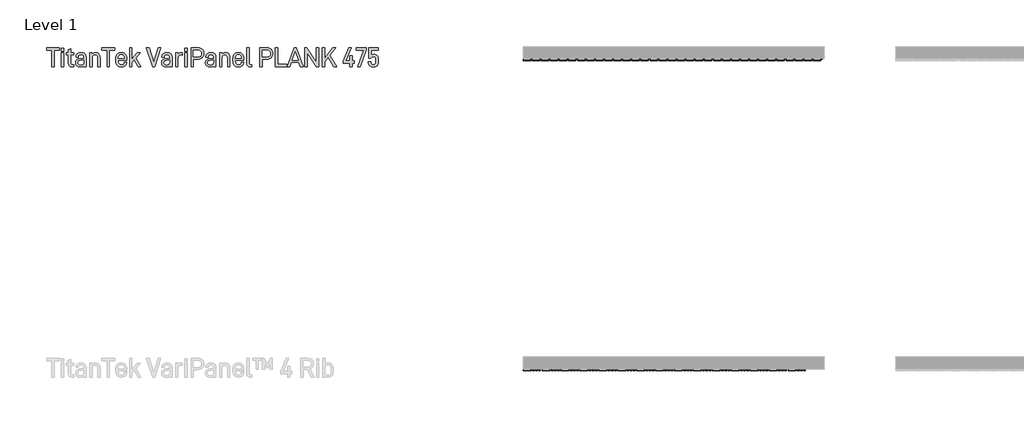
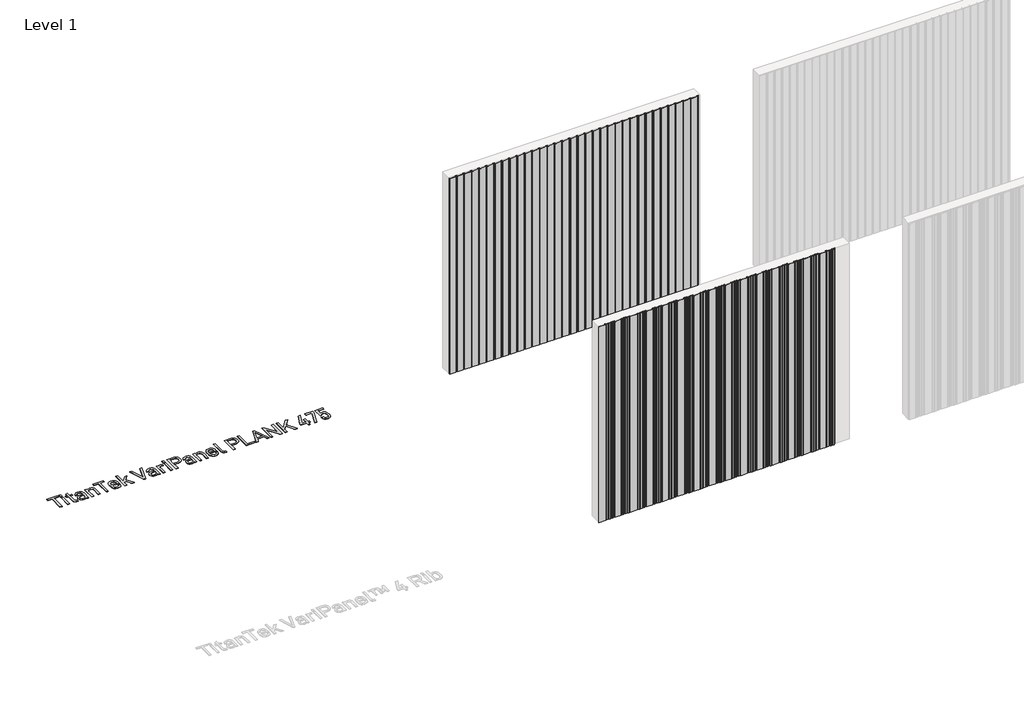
# One storey, part 16 of 33: 3 proxies.
"""IFC4 building model written with IfcOpenShell, lengths in millimetres."""

from ifc_helpers import new_model, si_unit, origin, origin_with_axes, place, context, project, spatial, polyline, outline, extrude, transform, mapped, element, save
from components import aluminum_slate_gray_4f0563ca, steel_bone_white_7c3ab337

model = new_model("IFC4")

# Units and contexts
model_context = context("Model", 3, world=origin())
ifc_project = project(units=[si_unit("LENGTHUNIT", "METRE", prefix="MILLI")], contexts=[model_context])

# Site, building, storey
site = spatial("IfcSite", under=ifc_project)
building = spatial("IfcBuilding", under=site)
storey = spatial("IfcBuildingStorey", under=building, Name="Level 1", Elevation=0.0)

# Proxies
placement = place(None, origin())
element("IfcBuildingElementProxy", 1, Name="600mm Arial 2", ObjectType="600mm Arial 2", at=placement, inside=storey, context=model_context, shape_type="SweptSolid", body=[
    extrude(outline(polyline([(-9914.9924556, 42220.4128343), (-9914.9924556, 41952.9873502), (-9954.4439015, 41952.9873502), (-9954.4439015, 42220.4128343), (-10038.8787304, 42220.4128343), (-10038.8787304, 42257.3166776), (-9830.5576267, 42257.3166776), (-9830.5576267, 42220.4128343), (-9914.9924556, 42220.4128343)])), origin_with_axes(), (0.0, 0.0, 1.0), 5.0),
    extrude(outline(polyline([(-9763.1553408, 42253.0221475), (-9763.1553408, 42205.8551051), (-9802.6067867, 42205.8551051), (-9802.6067867, 42253.0221475), (-9763.1553408, 42253.0221475)])), origin_with_axes(), (0.0, 0.0, 1.0), 5.0),
    extrude(outline(polyline([(-9764.0288046, 42178.8505176), (-9764.0288046, 41952.9873502), (-9801.733323, 41952.9873502), (-9801.733323, 42178.8505176), (-9764.0288046, 42178.8505176)])), origin_with_axes(), (0.0, 0.0, 1.0), 5.0),
    extrude(outline(polyline([(-9648.294858, 42012.601251), (-9646.8208879, 42001.5191797), (-9642.3989777, 41993.6034145), (-9635.0291273, 41988.8539554), (-9624.7113368, 41987.2708023), (-9603.2386864, 41987.2708023), (-9603.2386864, 41952.9873502), (-9629.3698101, 41952.9873502), (-9653.1535001, 41956.9543314), (-9671.3688587, 41968.855275), (-9682.6692959, 41987.3981825), (-9686.4361083, 42011.2910554), (-9686.4361083, 42147.1146681), (-9720.2828285, 42147.1146681), (-9720.2828285, 42178.8505176), (-9686.4361083, 42178.8505176), (-9686.4361083, 42226.8910237), (-9648.294858, 42244.8698192), (-9648.294858, 42178.8505176), (-9599.3808881, 42178.8505176), (-9599.3808881, 42147.1146681), (-9648.294858, 42147.1146681), (-9648.294858, 42012.601251)])), origin_with_axes(), (0.0, 0.0, 1.0), 5.0),
    extrude(outline(polyline([(-9422.8684225, 42162.1091291), (-9413.2830677, 42151.3409589), (-9406.4363858, 42138.2526505), (-9400.9590402, 42105.1156196), (-9400.9590402, 41952.9873502), (-9438.2996154, 41952.9873502), (-9438.2996154, 41969.2920069), (-9456.7151427, 41956.8451485), (-9473.7476858, 41952.0410978), (-9493.9829293, 41950.4397476), (-9526.0281305, 41954.7160806), (-9550.1029751, 41967.5450794), (-9565.2248162, 41989.3270816), (-9570.2654299, 42018.5699199), (-9565.1338304, 42046.2114081), (-9549.7390318, 42067.4111012), (-9525.063681, 42080.6222403), (-9493.1094655, 42085.0259534), (-9438.7363472, 42085.0259534), (-9438.7363472, 42105.5523515), (-9441.6296959, 42124.441005), (-9450.3097419, 42138.1616647), (-9464.2305704, 42146.1866129), (-9483.7197302, 42148.8615956), (-9502.2262434, 42146.6051476), (-9515.819523, 42139.8358036), (-9524.1720201, 42129.4816187), (-9526.9561857, 42115.4516073), (-9526.9561857, 42109.8468816), (-9563.8600291, 42109.8468816), (-9563.8600291, 42116.2522824), (-9558.4008807, 42143.2932642), (-9542.0234354, 42164.2927885), (-9516.8203668, 42177.4493362), (-9484.1564621, 42181.8348521), (-9448.6719974, 42176.9034213), (-9434.5600987, 42170.7391329), (-9422.8684225, 42162.1091291)]), holes=[polyline([(-9450.6736851, 41994.5496669), (-9441.7206817, 42009.4531421), (-9438.7363472, 42031.0167784), (-9438.7363472, 42054.9642428), (-9488.8149354, 42054.9642428), (-9507.9538, 42052.7168933), (-9521.6244175, 42045.974845), (-9529.826788, 42034.7380979), (-9532.5609115, 42019.0066518), (-9529.8540837, 42003.0522906), (-9521.7336004, 41991.6563182), (-9508.1994616, 41984.8187348), (-9489.2516673, 41982.5395404), (-9466.104878, 41985.542072), (-9450.6736851, 41994.5496669)])]), origin_with_axes(), (0.0, 0.0, 1.0), 5.0),
    extrude(outline(polyline([(-9306.6977441, 42178.8505176), (-9306.6977441, 42160.4349903), (-9288.2822167, 42173.6825238), (-9271.1222935, 42179.4692211), (-9252.2518372, 42181.3981202), (-9219.9154813, 42175.9389718), (-9206.7907787, 42169.1150363), (-9195.6950595, 42159.5615265), (-9187.0650557, 42147.9790333), (-9180.9007673, 42134.1946835), (-9175.9693365, 42100.0204144), (-9175.9693365, 41952.9873502), (-9213.673855, 41952.9873502), (-9213.673855, 42095.7258843), (-9216.6763866, 42118.1083928), (-9225.6839815, 42133.8671346), (-9240.3781893, 42143.4752358), (-9259.567096, 42146.6779363), (-9278.7378056, 42143.4752358), (-9293.3774219, 42133.8671346), (-9303.0401146, 42117.453295), (-9306.2610122, 42095.7258843), (-9306.2610122, 41952.9873502), (-9343.9655306, 41952.9873502), (-9343.9655306, 42178.8505176), (-9306.6977441, 42178.8505176)])), origin_with_axes(), (0.0, 0.0, 1.0), 5.0),
    extrude(outline(polyline([(-9025.2240514, 42220.4128343), (-9025.2240514, 41952.9873502), (-9064.6754974, 41952.9873502), (-9064.6754974, 42220.4128343), (-9149.1103263, 42220.4128343), (-9149.1103263, 42257.3166776), (-8940.7892225, 42257.3166776), (-8940.7892225, 42220.4128343), (-9025.2240514, 42220.4128343)])), origin_with_axes(), (0.0, 0.0, 1.0), 5.0),
    extrude(outline(polyline([(-8884.5235994, 42047.2486463), (-8881.1025331, 42017.8329349), (-8870.8393341, 41998.8805913), (-8854.3527058, 41988.5900965), (-8832.2613519, 41985.1599316), (-8812.990558, 41987.7257314), (-8798.8513635, 41995.4231306), (-8790.1713175, 42007.1966941), (-8787.2779689, 42022.86445), (-8787.2779689, 42028.3963871), (-8750.3741256, 42028.3963871), (-8750.3741256, 42021.9909863), (-8756.0516399, 41992.8391337), (-8763.1485329, 41980.528754), (-8773.084183, 41969.7287387), (-8799.7976159, 41955.2619954), (-8834.3722226, 41950.4397476), (-8853.3222916, 41951.9387388), (-8870.2843206, 41956.4357123), (-8885.2583098, 41963.9306682), (-8898.2442591, 41974.4236064), (-8908.7371973, 41988.0237099), (-8916.2321532, 42004.8401617), (-8920.7291267, 42024.8729617), (-8922.2281179, 42048.1221101), (-8922.2281179, 42085.8266285), (-8920.7314014, 42108.5321367), (-8916.2412518, 42128.1714231), (-8908.7576691, 42144.7444879), (-8898.2806535, 42158.2513309), (-8885.4971476, 42168.5691214), (-8870.7301511, 42175.9389718), (-8853.979664, 42180.360882), (-8835.2456864, 42181.8348521), (-8816.8438069, 42180.360882), (-8800.2161506, 42175.9389718), (-8785.3627176, 42168.5691214), (-8772.2835079, 42158.2513309), (-8761.9657174, 42144.9082623), (-8754.595867, 42128.389789), (-8750.1739568, 42108.6959111), (-8748.6999867, 42085.8266285), (-8748.6999867, 42055.8377065), (-8884.5235994, 42055.8377065), (-8884.5235994, 42047.2486463)]), holes=[polyline([(-8871.2760659, 42133.4304027), (-8881.2117161, 42115.30603), (-8884.5235994, 42086.7000923), (-8786.4045051, 42086.2633604), (-8786.4045051, 42089.6844267), (-8789.6254027, 42116.9255774), (-8799.2880954, 42134.3038665), (-8814.9012599, 42143.5844188), (-8835.2456864, 42146.6779363), (-8855.60831, 42143.3660529), (-8871.2760659, 42133.4304027)])]), origin_with_axes(), (0.0, 0.0, 1.0), 5.0),
    extrude(outline(polyline([(-8663.391694, 42020.3168474), (-8663.391694, 41952.9873502), (-8701.0962125, 41952.9873502), (-8701.0962125, 42257.3166776), (-8663.391694, 42257.3166776), (-8663.391694, 42070.8321675), (-8575.0990669, 42178.8505176), (-8528.3687564, 42178.8505176), (-8602.5403863, 42091.8680861), (-8517.6688255, 41952.9873502), (-8563.5256722, 41952.9873502), (-8627.7980463, 42062.6798392), (-8663.391694, 42020.3168474)])), origin_with_axes(), (0.0, 0.0, 1.0), 5.0),
    extrude(outline(polyline([(-8240.5624516, 42257.3166776), (-8199.0001349, 42257.3166776), (-8298.4294248, 41952.9873502), (-8330.1652743, 41952.9873502), (-8429.1578324, 42257.3166776), (-8387.5955157, 42257.3166776), (-8313.8606177, 42022.86445), (-8240.5624516, 42257.3166776)])), origin_with_axes(), (0.0, 0.0, 1.0), 5.0),
    extrude(outline(polyline([(-8039.3018464, 42162.1091291), (-8029.7164916, 42151.3409589), (-8022.8698097, 42138.2526505), (-8017.3924641, 42105.1156196), (-8017.3924641, 41952.9873502), (-8054.7330393, 41952.9873502), (-8054.7330393, 41969.2920069), (-8073.1485666, 41956.8451485), (-8090.1811097, 41952.0410978), (-8110.4163532, 41950.4397476), (-8142.4615544, 41954.7160806), (-8166.536399, 41967.5450794), (-8181.6582401, 41989.3270816), (-8186.6988538, 42018.5699199), (-8181.5672543, 42046.2114081), (-8166.1724557, 42067.4111012), (-8141.4971049, 42080.6222403), (-8109.5428894, 42085.0259534), (-8055.1697712, 42085.0259534), (-8055.1697712, 42105.5523515), (-8058.0631198, 42124.441005), (-8066.7431658, 42138.1616647), (-8080.6639943, 42146.1866129), (-8100.1531542, 42148.8615956), (-8118.6596673, 42146.6051476), (-8132.2529469, 42139.8358036), (-8140.605444, 42129.4816187), (-8143.3896097, 42115.4516073), (-8143.3896097, 42109.8468816), (-8180.293453, 42109.8468816), (-8180.293453, 42116.2522824), (-8174.8343046, 42143.2932642), (-8158.4568593, 42164.2927885), (-8133.2537908, 42177.4493362), (-8100.589886, 42181.8348521), (-8065.1054213, 42176.9034213), (-8050.9935226, 42170.7391329), (-8039.3018464, 42162.1091291)]), holes=[polyline([(-8067.107109, 41994.5496669), (-8058.1541056, 42009.4531421), (-8055.1697712, 42031.0167784), (-8055.1697712, 42054.9642428), (-8105.2483594, 42054.9642428), (-8124.3872239, 42052.7168933), (-8138.0578414, 42045.974845), (-8146.2602119, 42034.7380979), (-8148.9943354, 42019.0066518), (-8146.2875076, 42003.0522906), (-8138.1670243, 41991.6563182), (-8124.6328855, 41984.8187348), (-8105.6850912, 41982.5395404), (-8082.5383019, 41985.542072), (-8067.107109, 41994.5496669)])]), origin_with_axes(), (0.0, 0.0, 1.0), 5.0),
    extrude(outline(polyline([(-7870.4321886, 42181.8348521), (-7850.2697337, 42179.7239814), (-7850.2697337, 42140.7092673), (-7876.8375894, 42146.313993), (-7895.1712295, 42142.7746451), (-7909.8472402, 42132.1566015), (-7919.4826371, 42115.7518604), (-7922.6944361, 42094.8524206), (-7922.6944361, 41952.9873502), (-7960.3989546, 41952.9873502), (-7960.3989546, 42178.8505176), (-7923.131168, 42178.8505176), (-7923.131168, 42159.1247947), (-7905.5891044, 42173.3185806), (-7889.4846166, 42179.7057842), (-7870.4321886, 42181.8348521)])), origin_with_axes(), (0.0, 0.0, 1.0), 5.0),
    extrude(outline(polyline([(-7773.9872331, 42253.0221475), (-7773.9872331, 42205.8551051), (-7813.438679, 42205.8551051), (-7813.438679, 42253.0221475), (-7773.9872331, 42253.0221475)])), origin_with_axes(), (0.0, 0.0, 1.0), 5.0),
    extrude(outline(polyline([(-7774.8606969, 42178.8505176), (-7774.8606969, 41952.9873502), (-7812.5652153, 41952.9873502), (-7812.5652153, 42178.8505176), (-7774.8606969, 42178.8505176)])), origin_with_axes(), (0.0, 0.0, 1.0), 5.0),
    extrude(outline(polyline([(-7529.6357497, 42233.2964245), (-7518.2033831, 42219.8396237), (-7510.0374069, 42203.926206), (-7505.1378212, 42185.5561716), (-7503.504626, 42164.7295204), (-7505.1651169, 42145.044741), (-7510.1465899, 42127.5527196), (-7518.4490448, 42112.2534562), (-7530.0724816, 42099.1469507), (-7544.1297888, 42088.6380899), (-7560.6073184, 42081.1317609), (-7579.5050706, 42076.6279634), (-7600.8230452, 42075.1266976), (-7671.5008201, 42075.1266976), (-7671.5008201, 41952.9873502), (-7711.3889979, 41952.9873502), (-7711.3889979, 42257.3166776), (-7600.8230452, 42257.3166776), (-7579.6415493, 42255.8154118), (-7560.7165014, 42251.3116143), (-7544.0479016, 42243.8052853), (-7529.6357497, 42233.2964245)]), holes=[polyline([(-7558.3872648, 42125.2780744), (-7547.141419, 42141.5827311), (-7543.3928038, 42164.7295204), (-7547.250602, 42189.3502798), (-7558.8239966, 42206.7285689), (-7577.8946218, 42216.9917679), (-7603.3706478, 42220.4128343), (-7671.5008201, 42220.4128343), (-7671.5008201, 42112.0305409), (-7603.3706478, 42112.0305409), (-7577.130341, 42115.3424243), (-7558.3872648, 42125.2780744)])]), origin_with_axes(), (0.0, 0.0, 1.0), 5.0),
    extrude(outline(polyline([(-7331.2139018, 42162.1091291), (-7321.628547, 42151.3409589), (-7314.781865, 42138.2526505), (-7309.3045194, 42105.1156196), (-7309.3045194, 41952.9873502), (-7346.6450946, 41952.9873502), (-7346.6450946, 41969.2920069), (-7365.060622, 41956.8451485), (-7382.093165, 41952.0410978), (-7402.3284085, 41950.4397476), (-7434.3736098, 41954.7160806), (-7458.4484543, 41967.5450794), (-7473.5702954, 41989.3270816), (-7478.6109091, 42018.5699199), (-7473.4793096, 42046.2114081), (-7458.0845111, 42067.4111012), (-7433.4091602, 42080.6222403), (-7401.4549448, 42085.0259534), (-7347.0818265, 42085.0259534), (-7347.0818265, 42105.5523515), (-7349.9751752, 42124.441005), (-7358.6552212, 42138.1616647), (-7372.5760496, 42146.1866129), (-7392.0652095, 42148.8615956), (-7410.5717226, 42146.6051476), (-7424.1650022, 42139.8358036), (-7432.5174993, 42129.4816187), (-7435.301665, 42115.4516073), (-7435.301665, 42109.8468816), (-7472.2055083, 42109.8468816), (-7472.2055083, 42116.2522824), (-7466.7463599, 42143.2932642), (-7450.3689146, 42164.2927885), (-7425.1658461, 42177.4493362), (-7392.5019414, 42181.8348521), (-7357.0174766, 42176.9034213), (-7342.905578, 42170.7391329), (-7331.2139018, 42162.1091291)]), holes=[polyline([(-7359.0191644, 41994.5496669), (-7350.066161, 42009.4531421), (-7347.0818265, 42031.0167784), (-7347.0818265, 42054.9642428), (-7397.1604147, 42054.9642428), (-7416.2992792, 42052.7168933), (-7429.9698967, 42045.974845), (-7438.1722672, 42034.7380979), (-7440.9063907, 42019.0066518), (-7438.199563, 42003.0522906), (-7430.0790797, 41991.6563182), (-7416.5449409, 41984.8187348), (-7397.5971466, 41982.5395404), (-7374.4503573, 41985.542072), (-7359.0191644, 41994.5496669)])]), origin_with_axes(), (0.0, 0.0, 1.0), 5.0),
    extrude(outline(polyline([(-7215.0432233, 42178.8505176), (-7215.0432233, 42160.4349903), (-7196.627696, 42173.6825238), (-7179.4677728, 42179.4692211), (-7160.5973164, 42181.3981202), (-7128.2609606, 42175.9389718), (-7115.1362579, 42169.1150363), (-7104.0405387, 42159.5615265), (-7095.410535, 42147.9790333), (-7089.2462465, 42134.1946835), (-7084.3148158, 42100.0204144), (-7084.3148158, 41952.9873502), (-7122.0193342, 41952.9873502), (-7122.0193342, 42095.7258843), (-7125.0218659, 42118.1083928), (-7134.0294607, 42133.8671346), (-7148.7236686, 42143.4752358), (-7167.9125753, 42146.6779363), (-7187.0832848, 42143.4752358), (-7201.7229012, 42133.8671346), (-7211.3855939, 42117.453295), (-7214.6064915, 42095.7258843), (-7214.6064915, 41952.9873502), (-7252.3110099, 41952.9873502), (-7252.3110099, 42178.8505176), (-7215.0432233, 42178.8505176)])), origin_with_axes(), (0.0, 0.0, 1.0), 5.0),
    extrude(outline(polyline([(-6997.8419048, 42047.2486463), (-6994.4208384, 42017.8329349), (-6984.1576394, 41998.8805913), (-6967.6710112, 41988.5900965), (-6945.5796572, 41985.1599316), (-6926.3088633, 41987.7257314), (-6912.1696689, 41995.4231306), (-6903.4896229, 42007.1966941), (-6900.5962742, 42022.86445), (-6900.5962742, 42028.3963871), (-6863.6924309, 42028.3963871), (-6863.6924309, 42021.9909863), (-6869.3699452, 41992.8391337), (-6876.4668382, 41980.528754), (-6886.4024883, 41969.7287387), (-6913.1159213, 41955.2619954), (-6947.6905279, 41950.4397476), (-6966.6405969, 41951.9387388), (-6983.602626, 41956.4357123), (-6998.5766152, 41963.9306682), (-7011.5625645, 41974.4236064), (-7022.0555027, 41988.0237099), (-7029.5504585, 42004.8401617), (-7034.047432, 42024.8729617), (-7035.5464232, 42048.1221101), (-7035.5464232, 42085.8266285), (-7034.0497067, 42108.5321367), (-7029.5595571, 42128.1714231), (-7022.0759745, 42144.7444879), (-7011.5989588, 42158.2513309), (-6998.8154529, 42168.5691214), (-6984.0484564, 42175.9389718), (-6967.2979694, 42180.360882), (-6948.5639917, 42181.8348521), (-6930.1621122, 42180.360882), (-6913.534456, 42175.9389718), (-6898.681023, 42168.5691214), (-6885.6018132, 42158.2513309), (-6875.2840227, 42144.9082623), (-6867.9141723, 42128.389789), (-6863.4922621, 42108.6959111), (-6862.018292, 42085.8266285), (-6862.018292, 42055.8377065), (-6997.8419048, 42055.8377065), (-6997.8419048, 42047.2486463)]), holes=[polyline([(-6984.5943713, 42133.4304027), (-6994.5300214, 42115.30603), (-6997.8419048, 42086.7000923), (-6899.7228105, 42086.2633604), (-6899.7228105, 42089.6844267), (-6902.943708, 42116.9255774), (-6912.6064007, 42134.3038665), (-6928.2195652, 42143.5844188), (-6948.5639917, 42146.6779363), (-6968.9266153, 42143.3660529), (-6984.5943713, 42133.4304027)])]), origin_with_axes(), (0.0, 0.0, 1.0), 5.0),
    extrude(outline(polyline([(-6799.4200568, 41968.855275), (-6810.6659025, 41988.362632), (-6814.4145178, 42014.2753899), (-6814.4145178, 42257.3166776), (-6776.7099994, 42257.3166776), (-6776.7099994, 42016.0223174), (-6775.3270151, 42002.6110094), (-6771.1780623, 41994.112935), (-6764.1903523, 41989.6364333), (-6753.5632101, 41988.1442661), (-6731.7266164, 41988.1442661), (-6731.7266164, 41952.9873502), (-6756.5475445, 41952.9873502), (-6781.4230642, 41956.9543314), (-6799.4200568, 41968.855275)])), origin_with_axes(), (0.0, 0.0, 1.0), 5.0),
    extrude(outline(polyline([(-6420.9190995, 42233.2964245), (-6409.4867329, 42219.8396237), (-6401.3207567, 42203.926206), (-6396.421171, 42185.5561716), (-6394.7879758, 42164.7295204), (-6396.4484667, 42145.044741), (-6401.4299397, 42127.5527196), (-6409.7323946, 42112.2534562), (-6421.3558314, 42099.1469507), (-6435.4131386, 42088.6380899), (-6451.8906682, 42081.1317609), (-6470.7884204, 42076.6279634), (-6492.106395, 42075.1266976), (-6562.7841699, 42075.1266976), (-6562.7841699, 41952.9873502), (-6602.6723477, 41952.9873502), (-6602.6723477, 42257.3166776), (-6492.106395, 42257.3166776), (-6470.9248991, 42255.8154118), (-6451.9998512, 42251.3116143), (-6435.3312514, 42243.8052853), (-6420.9190995, 42233.2964245)]), holes=[polyline([(-6449.6706146, 42125.2780744), (-6438.4247688, 42141.5827311), (-6434.6761536, 42164.7295204), (-6438.5339518, 42189.3502798), (-6450.1073464, 42206.7285689), (-6469.1779716, 42216.9917679), (-6494.6539976, 42220.4128343), (-6562.7841699, 42220.4128343), (-6562.7841699, 42112.0305409), (-6494.6539976, 42112.0305409), (-6468.4136908, 42115.3424243), (-6449.6706146, 42125.2780744)])]), origin_with_axes(), (0.0, 0.0, 1.0), 5.0),
    extrude(outline(polyline([(-6315.8850839, 42257.3166776), (-6315.8850839, 41989.8184049), (-6168.4880765, 41989.8184049), (-6168.4880765, 41952.9873502), (-6355.7732617, 41952.9873502), (-6355.7732617, 42257.3166776), (-6315.8850839, 42257.3166776)])), origin_with_axes(), (0.0, 0.0, 1.0), 5.0),
    extrude(outline(polyline([(-6093.6613488, 42024.1746457), (-6118.482277, 41952.9873502), (-6160.4813255, 41952.9873502), (-6049.9153728, 42257.3166776), (-6017.81558, 42257.3166776), (-5907.1768387, 41952.9873502), (-5949.1758872, 41952.9873502), (-5974.069604, 42024.1746457), (-6093.6613488, 42024.1746457)]), holes=[polyline([(-6034.047448, 42196.4653699), (-6081.6512223, 42059.2587729), (-5986.0797306, 42059.2587729), (-6034.047448, 42196.4653699)])]), origin_with_axes(), (0.0, 0.0, 1.0), 5.0),
    extrude(outline(polyline([(-5696.3081323, 42257.3166776), (-5656.4199545, 42257.3166776), (-5656.4199545, 41952.9873502), (-5694.1972616, 41952.9873502), (-5840.7208052, 42181.3981202), (-5840.7208052, 41952.9873502), (-5880.608983, 41952.9873502), (-5880.608983, 42257.3166776), (-5842.9044646, 42257.3166776), (-5696.3081323, 42029.7065827), (-5696.3081323, 42257.3166776)])), origin_with_axes(), (0.0, 0.0, 1.0), 5.0),
    extrude(outline(polyline([(-5556.5539327, 42036.9854473), (-5556.5539327, 41952.9873502), (-5596.4421105, 41952.9873502), (-5596.4421105, 42257.3166776), (-5556.5539327, 42257.3166776), (-5556.5539327, 42093.1054931), (-5426.262257, 42257.3166776), (-5377.8578077, 42257.3166776), (-5475.1762269, 42137.288201), (-5365.8476812, 41952.9873502), (-5412.5779917, 41952.9873502), (-5500.8706188, 42105.5523515), (-5556.5539327, 42036.9854473)])), origin_with_axes(), (0.0, 0.0, 1.0), 5.0),
    extrude(outline(polyline([(-5110.7234782, 42010.8543235), (-5110.7234782, 41952.9873502), (-5150.611656, 41952.9873502), (-5150.611656, 42010.8543235), (-5261.6143406, 42010.8543235), (-5261.6143406, 42044.2643119), (-5171.6475746, 42257.3166776), (-5130.8859331, 42257.3166776), (-5219.6152921, 42047.6853782), (-5150.611656, 42047.6853782), (-5150.611656, 42128.2624089), (-5110.7234782, 42128.2624089), (-5110.7234782, 42047.6853782), (-5078.6236855, 42047.6853782), (-5078.6236855, 42010.8543235), (-5110.7234782, 42010.8543235)])), origin_with_axes(), (0.0, 0.0, 1.0), 5.0),
    extrude(outline(polyline([(-4890.9017684, 42223.8339006), (-4988.5841309, 41952.9873502), (-5028.9090406, 41952.9873502), (-4931.1538895, 42220.4128343), (-5049.8721705, 42220.4128343), (-5049.8721705, 42257.3166776), (-4890.9017684, 42257.3166776), (-4890.9017684, 42223.8339006)])), origin_with_axes(), (0.0, 0.0, 1.0), 5.0),
    extrude(outline(polyline([(-4830.9967131, 41968.4185431), (-4840.3591526, 41978.9728967), (-4847.0466095, 41991.3469665), (-4852.3965749, 42021.5542544), (-4852.3965749, 42031.4535102), (-4813.8185927, 42031.4535102), (-4813.8185927, 42024.1746457), (-4811.252793, 42007.7426089), (-4803.5553937, 41995.4231306), (-4790.7081977, 41988.0532803), (-4773.5664717, 41985.5966635), (-4755.7650985, 41988.8084625), (-4743.049832, 41998.4438594), (-4735.4206721, 42014.5028544), (-4732.8776188, 42036.9854473), (-4732.8776188, 42064.8634986), (-4735.3342356, 42088.2286538), (-4742.7040859, 42104.3149445), (-4755.0053671, 42113.5954968), (-4773.1297398, 42116.6890143), (-4786.5228506, 42114.8692981), (-4797.5867248, 42109.4101497), (-4806.7944884, 42099.8748371), (-4813.0179176, 42086.7000923), (-4847.7381016, 42086.7000923), (-4847.7381016, 42257.3166776), (-4697.7207029, 42257.3166776), (-4697.7207029, 42219.9761024), (-4810.3975264, 42219.9761024), (-4810.3975264, 42139.8358036), (-4796.713261, 42147.9881319), (-4768.8352097, 42153.5928576), (-4751.133921, 42152.1461833), (-4735.7345731, 42147.8061603), (-4722.6371662, 42140.5727886), (-4711.8417002, 42130.4460683), (-4697.7025058, 42103.1139318), (-4692.989441, 42066.5376374), (-4692.989441, 42034.4378447), (-4698.348505, 41998.5166481), (-4705.0473351, 41983.8588346), (-4714.4256971, 41971.4028776), (-4726.1332958, 41961.4672275), (-4739.8198359, 41954.3703345), (-4773.1297398, 41948.6928201), (-4806.0120105, 41953.6242509), (-4830.9967131, 41968.4185431)])), origin_with_axes(), (0.0, 0.0, 1.0), 5.0),
])
aluminum_slate_gray_shape = aluminum_slate_gray_4f0563ca(model_context)
element("IfcBuildingElementProxy", 2, Name="TitanTek VariPanel PLANK 475 : Aluminum Slate Gray", ObjectType="TitanTek VariPanel PLANK 475 : Aluminum Slate Gray", at=placement, inside=storey, context=model_context, shape_type="MappedRepresentation", body=[
    mapped(aluminum_slate_gray_shape, transform((-2360.5897817, 42078.6095025, 0.0), x_axis=(1.0, 0.0, 0.0), y_axis=(0.0, 1.0, 0.0), z_axis=(0.0, 0.0, 1.0))),
])
steel_bone_white_shape = steel_bone_white_7c3ab337(model_context)
element("IfcBuildingElementProxy", 3, Name="TitanTek VariPanel™ 4 Rib : Steel Slate Gray", ObjectType="TitanTek VariPanel™ 4 Rib : Steel Slate Gray", at=placement, inside=storey, context=model_context, shape_type="MappedRepresentation", body=[
    mapped(steel_bone_white_shape, transform((-2360.5897817, 37078.6095025, 0.0), x_axis=(1.0, 0.0, 0.0), y_axis=(0.0, 1.0, 0.0), z_axis=(0.0, 0.0, 1.0))),
])

save(model, "model.ifc")
